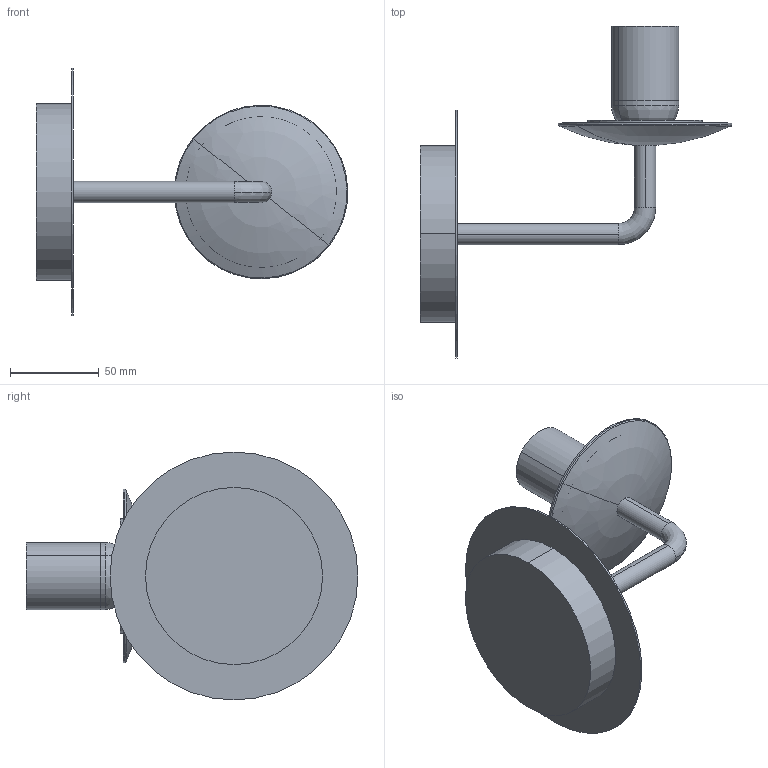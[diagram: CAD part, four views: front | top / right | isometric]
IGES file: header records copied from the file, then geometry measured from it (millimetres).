
Start section: SolidWorks IGES file using analytic representation for surfaces
Global section: file name: \\192.168.111.232\grupos\DISENYO\DESARROLLO DE PRODUCTO\PARMA-3946\PARMA - A3946182SP - APLIQUE BRAZO SIN TULIPA.IGS; native system: SolidWorks 2025; preprocessor: SolidWorks 2025; author: o.domenech; date: 260121.130706; units: millimetre
Bounding box: 175.97 x 187.45 x 140 mm (x, y, z)
Volume: 257780.5 mm3; surface area: 74713.4 mm2
Topology: 3 solids, 3 shells, 74 faces, 525 edges, 627 vertices
Faces by surface type: revolution 55, plane 15, bspline 4
